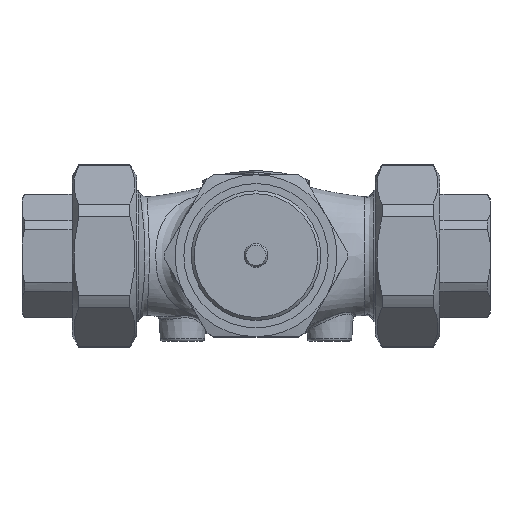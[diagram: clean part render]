
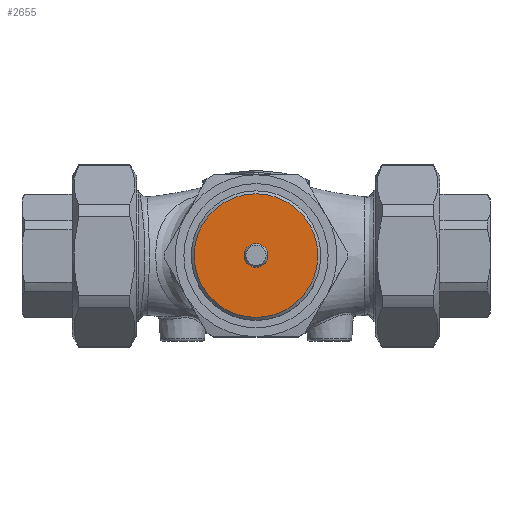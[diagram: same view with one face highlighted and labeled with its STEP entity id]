
A CAD part, top view. The second image highlights one B-rep face of the part: STEP entity #2655.
In plain terms, the highlighted planar face has unit normal (0, 0, 1).
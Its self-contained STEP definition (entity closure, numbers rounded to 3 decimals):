
#2655=ADVANCED_FACE('',(#3407,#3408),#3168,.F.);
#3168=PLANE('',#10240);
#3407=FACE_BOUND('',#3717,.T.);
#3408=FACE_BOUND('',#3718,.T.);
#3717=EDGE_LOOP('',(#4881));
#3718=EDGE_LOOP('',(#4882));
#4881=ORIENTED_EDGE('',*,*,#8321,.T.);
#4882=ORIENTED_EDGE('',*,*,#8316,.T.);
#7301=VERTEX_POINT('',#21274);
#7306=VERTEX_POINT('',#21289);
#8316=EDGE_CURVE('',#7301,#7301,#9551,.T.);
#8321=EDGE_CURVE('',#7306,#7306,#9556,.T.);
#9551=CIRCLE('',#10229,21.);
#9556=CIRCLE('',#10239,4.);
#10229=AXIS2_PLACEMENT_3D('',#21273,#11639,#11640);
#10239=AXIS2_PLACEMENT_3D('',#21288,#11659,#11660);
#10240=AXIS2_PLACEMENT_3D('',#21290,#11661,#11662);
#11639=DIRECTION('',(0.,0.,1.));
#11640=DIRECTION('',(-1.,0.,0.));
#11659=DIRECTION('',(0.,0.,-1.));
#11660=DIRECTION('',(-1.,0.,0.));
#11661=DIRECTION('',(0.,0.,-1.));
#11662=DIRECTION('',(-1.,0.,0.));
#21273=CARTESIAN_POINT('',(0.,0.,80.6));
#21274=CARTESIAN_POINT('',(-21.,0.,80.6));
#21288=CARTESIAN_POINT('',(0.,0.,80.6));
#21289=CARTESIAN_POINT('',(-4.,0.,80.6));
#21290=CARTESIAN_POINT('',(0.,-11.25,80.6));
